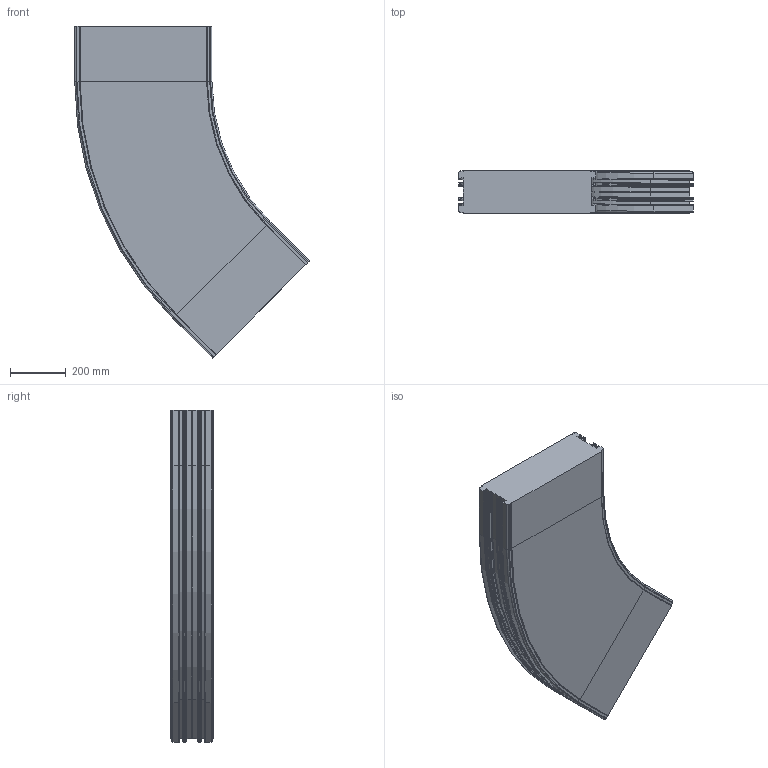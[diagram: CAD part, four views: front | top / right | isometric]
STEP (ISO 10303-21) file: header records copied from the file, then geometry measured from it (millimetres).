
FILE_DESCRIPTION (( 'STEP AP214' ), '1' );
FILE_NAME ('F2-1800-C960-45.STEP', '2016-02-16T13:16:54', ( '' ), ( '' ), 'SwSTEP 2.0', 'SolidWorks 2014', '' );
FILE_SCHEMA (( 'AUTOMOTIVE_DESIGN' ));
Length unit declared in the file: millimetre
Products named in the file (1): F2-1800-C960-45
Bounding box: 844.25 x 153.4 x 1194.9 mm (x, y, z)
Volume: 83923690.2 mm3; surface area: 2090165.3 mm2
Topology: 1 solids, 1 shells, 644 faces, 1498 edges, 856 vertices
Faces by surface type: plane 300, cylinder 244, torus 92, cone 8
Entity records: 17974 total; most frequent: DIRECTION 3370, CARTESIAN_POINT 2999, ORIENTED_EDGE 2996, EDGE_CURVE 1498, AXIS2_PLACEMENT_3D 1227, LINE 916, VECTOR 916, VERTEX_POINT 856
